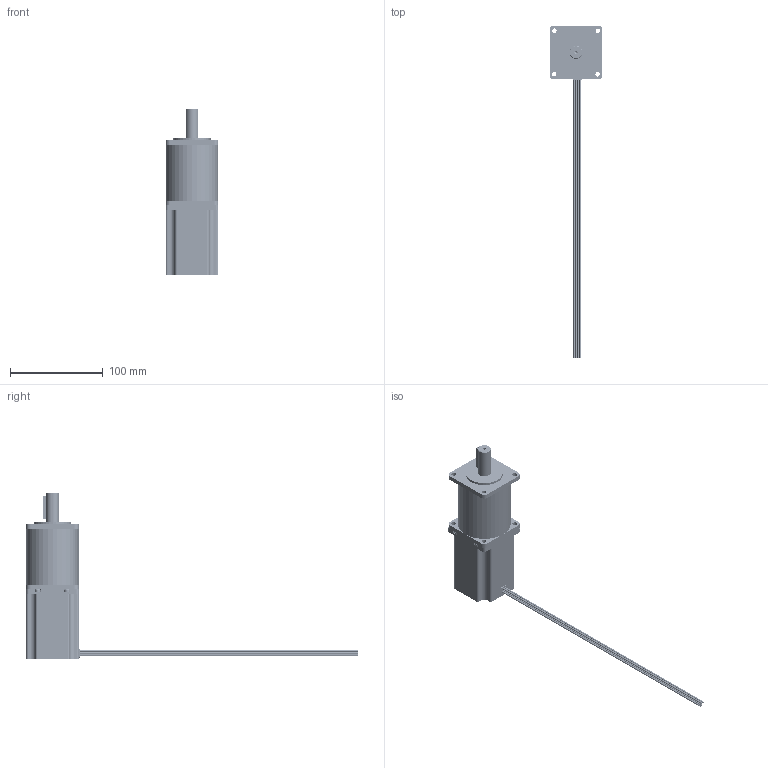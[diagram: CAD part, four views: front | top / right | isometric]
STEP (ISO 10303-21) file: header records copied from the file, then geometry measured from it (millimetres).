
FILE_DESCRIPTION (( 'STEP AP214' ), '1' );
FILE_NAME ('JK57HS76-2008PL100.STEP', '2019-12-06T05:20:41', ( 'Win7_64' ), ( 'Win7_64' ), 'SwSTEP 2.0', 'SolidWorks 2016', '' );
FILE_SCHEMA (( 'AUTOMOTIVE_DESIGN' ));
Length unit declared in the file: millimetre
Products named in the file (8): JK57HS76-2008PL100; 8盄; 熬厒眊; M3｡ﾁ70; JK.006.057.001F; JK.006.057.001B; 6.35｡ﾁ21; 57-53 隅赽
Assembly tree (10 placements, depth 2):
  JK57HS76-2008PL100
    57-53 隅赽
    6.35｡ﾁ21
    JK.006.057.001B
    JK.006.057.001F
    M3｡ﾁ70  x4
    熬厒眊
    8盄
Bounding box: 57 x 358 x 179.4 mm (x, y, z)
Volume: 344368.3 mm3; surface area: 90798 mm2
Topology: 10 solids, 10 shells, 1507 faces, 4322 edges, 2863 vertices
Faces by surface type: cylinder 1286, plane 197, bspline 12, torus 8, cone 4
Entity records: 34357 total; most frequent: CARTESIAN_POINT 20078, ORIENTED_EDGE 3222, DIRECTION 2547, EDGE_CURVE 1611, VERTEX_POINT 1066, AXIS2_PLACEMENT_3D 906, LINE 735, VECTOR 735
